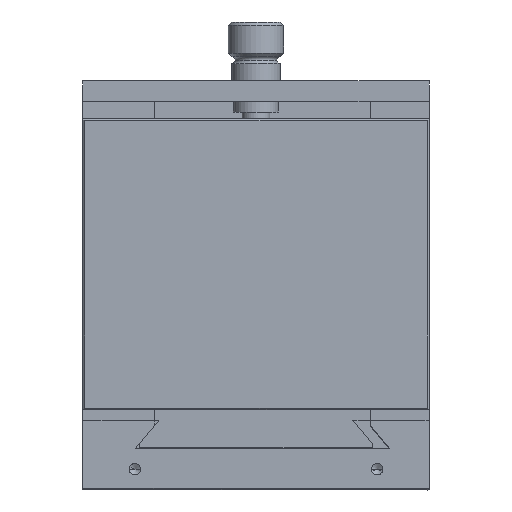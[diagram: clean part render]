
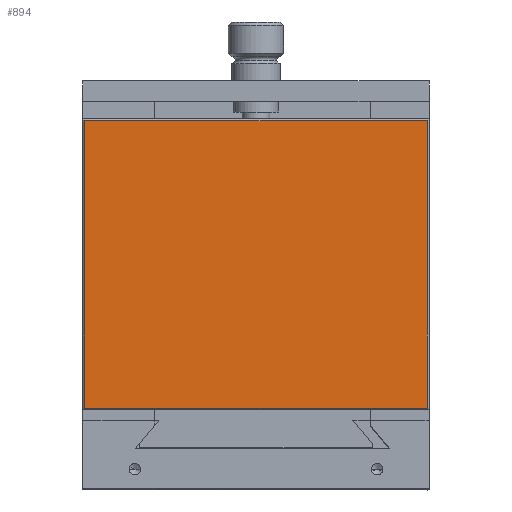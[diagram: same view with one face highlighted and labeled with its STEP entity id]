
A CAD part, front view. The second image highlights one B-rep face of the part: STEP entity #894.
In plain terms, the highlighted planar face has unit normal (0, -1, 0).
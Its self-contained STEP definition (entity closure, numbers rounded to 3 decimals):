
#232=DIRECTION('',(0.,0.,1.));
#233=VECTOR('',#232,83.);
#234=CARTESIAN_POINT('',(-99.5,0.,0.5));
#235=LINE('',#234,#233);
#240=DIRECTION('',(1.,0.,0.));
#241=VECTOR('',#240,99.);
#242=CARTESIAN_POINT('',(-99.5,0.,83.5));
#243=LINE('',#242,#241);
#256=DIRECTION('',(0.,0.,-1.));
#257=VECTOR('',#256,83.);
#258=CARTESIAN_POINT('',(-0.5,0.,83.5));
#259=LINE('',#258,#257);
#276=DIRECTION('',(-1.,0.,0.));
#277=VECTOR('',#276,99.);
#278=CARTESIAN_POINT('',(-0.5,0.,0.5));
#279=LINE('',#278,#277);
#415=CARTESIAN_POINT('',(-0.5,0.,83.5));
#417=VERTEX_POINT('',#415);
#426=CARTESIAN_POINT('',(-99.5,0.,83.5));
#427=VERTEX_POINT('',#426);
#484=CARTESIAN_POINT('',(-0.5,0.,0.5));
#485=CARTESIAN_POINT('',(-99.5,0.,0.5));
#486=VERTEX_POINT('',#484);
#487=VERTEX_POINT('',#485);
#883=CARTESIAN_POINT('',(0.,0.,84.));
#884=DIRECTION('',(0.,1.,0.));
#885=DIRECTION('',(-1.,0.,0.));
#886=AXIS2_PLACEMENT_3D('',#883,#884,#885);
#887=PLANE('',#886);
#888=ORIENTED_EDGE('',*,*,#849,.T.);
#889=ORIENTED_EDGE('',*,*,#863,.T.);
#890=ORIENTED_EDGE('',*,*,#878,.T.);
#891=ORIENTED_EDGE('',*,*,#834,.T.);
#892=EDGE_LOOP('',(#888,#889,#890,#891));
#893=FACE_OUTER_BOUND('',#892,.F.);
#894=ADVANCED_FACE('',(#893),#887,.F.);
#834=EDGE_CURVE('',#487,#427,#235,.T.);
#849=EDGE_CURVE('',#427,#417,#243,.T.);
#863=EDGE_CURVE('',#417,#486,#259,.T.);
#878=EDGE_CURVE('',#486,#487,#279,.T.);
